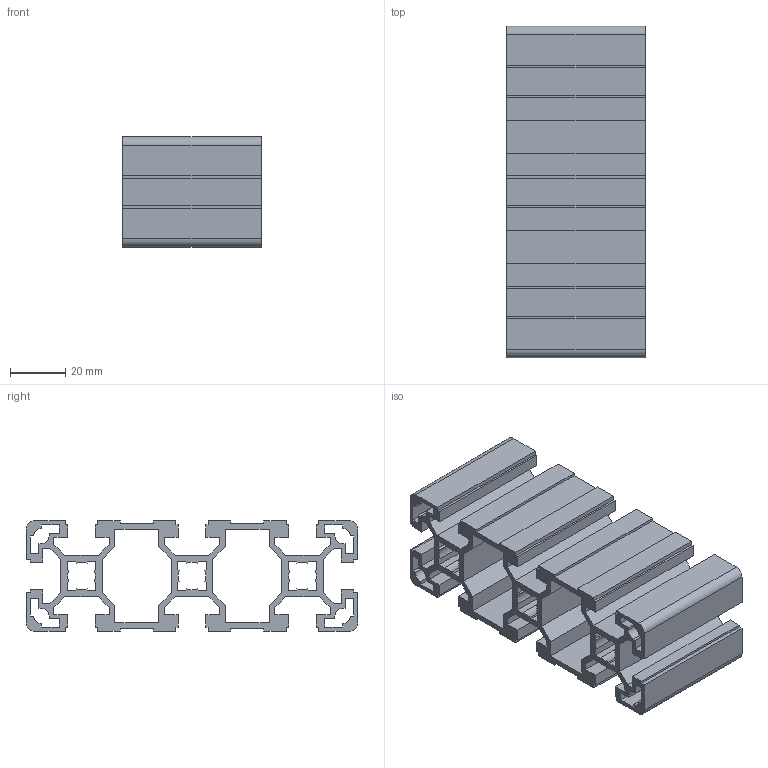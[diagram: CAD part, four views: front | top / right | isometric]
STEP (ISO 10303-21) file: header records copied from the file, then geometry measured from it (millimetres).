
FILE_DESCRIPTION(('no description'),'unknown implementation level');
FILE_NAME('3842993139_114914214.stp',' ',('Bosch Rexroth AG'),('CADClick - KiM GmbH - www.kimweb.de'),'unknown preprocess','ACIS','unknown authorization');
FILE_SCHEMA(('automotive_design'));
Length unit declared in the file: millimetre
Products named in the file (1): 1
Bounding box: 50 x 120 x 40 mm (x, y, z)
Volume: 70405.4 mm3; surface area: 60634.7 mm2
Topology: 1 solids, 1 shells, 270 faces, 804 edges, 536 vertices
Faces by surface type: plane 246, cylinder 24
Entity records: 17836 total; most frequent: STYLED_ITEM 1611, PRESENTATION_STYLE_ASSIGNMENT 1611, CARTESIAN_POINT 1611, COLOUR_RGB 1611, ORIENTED_EDGE 1608, DIRECTION 1394, EDGE_CURVE 804, CURVE_STYLE 804
